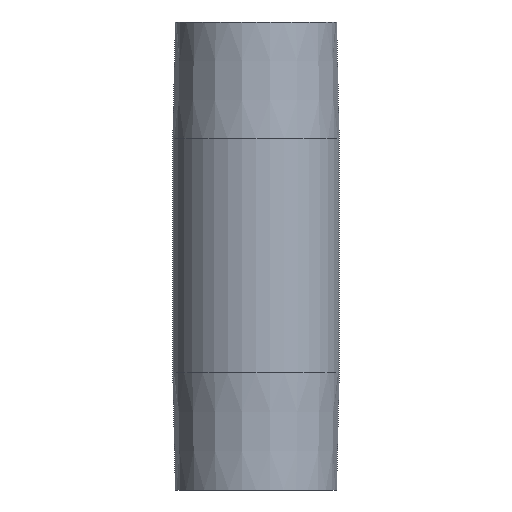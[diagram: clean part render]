
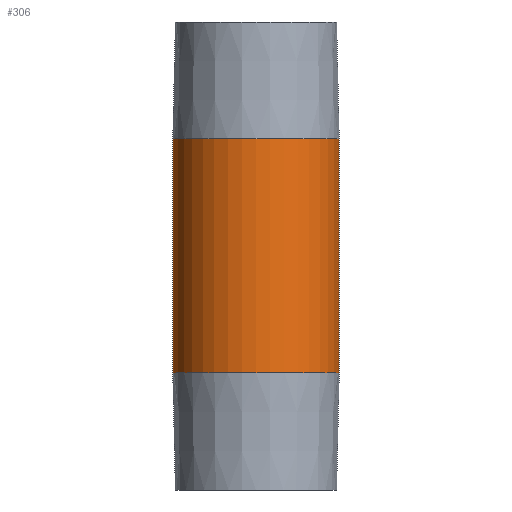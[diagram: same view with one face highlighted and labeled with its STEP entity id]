
A CAD part, front view. The second image highlights one B-rep face of the part: STEP entity #306.
In plain terms, the highlighted cylindrical face has radius 16 mm (diameter 32 mm), a partial arc.
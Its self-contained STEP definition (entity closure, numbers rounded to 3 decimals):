
#10 = VERTEX_POINT ( 'NONE', #141 ) ;
#45 = CARTESIAN_POINT ( 'NONE',  ( -16., 0., -22.5 ) ) ;
#48 = DIRECTION ( 'NONE',  ( 0., 0., 1. ) ) ;
#50 = EDGE_CURVE ( 'NONE', #149, #359, #256, .T. ) ;
#52 = LINE ( 'NONE', #204, #201 ) ;
#61 = DIRECTION ( 'NONE',  ( -1., 0., 0. ) ) ;
#76 = EDGE_CURVE ( 'NONE', #114, #359, #193, .T. ) ;
#92 = DIRECTION ( 'NONE',  ( 0., 0., -1. ) ) ;
#93 = FACE_OUTER_BOUND ( 'NONE', #195, .T. ) ;
#111 = AXIS2_PLACEMENT_3D ( 'NONE', #119, #48, #186 ) ;
#114 = VERTEX_POINT ( 'NONE', #45 ) ;
#119 = CARTESIAN_POINT ( 'NONE',  ( 0., 0., 22.5 ) ) ;
#126 = EDGE_CURVE ( 'NONE', #10, #149, #396, .T. ) ;
#127 = ORIENTED_EDGE ( 'NONE', *, *, #328, .T. ) ;
#141 = CARTESIAN_POINT ( 'NONE',  ( -16., 0., 22.5 ) ) ;
#149 = VERTEX_POINT ( 'NONE', #338 ) ;
#170 = CARTESIAN_POINT ( 'NONE',  ( 16., 0., -22.5 ) ) ;
#181 = DIRECTION ( 'NONE',  ( 0., 0., 1. ) ) ;
#186 = DIRECTION ( 'NONE',  ( 1., 0., 0. ) ) ;
#193 = CIRCLE ( 'NONE', #340, 16. ) ;
#195 = EDGE_LOOP ( 'NONE', ( #405, #210, #127, #334 ) ) ;
#201 = VECTOR ( 'NONE', #350, 1000. ) ;
#204 = CARTESIAN_POINT ( 'NONE',  ( -16., 0., 45. ) ) ;
#210 = ORIENTED_EDGE ( 'NONE', *, *, #126, .F. ) ;
#243 = CARTESIAN_POINT ( 'NONE',  ( 0., 0., 45. ) ) ;
#256 = LINE ( 'NONE', #295, #363 ) ;
#267 = AXIS2_PLACEMENT_3D ( 'NONE', #243, #92, #61 ) ;
#294 = DIRECTION ( 'NONE',  ( 0., 0., -1. ) ) ;
#295 = CARTESIAN_POINT ( 'NONE',  ( 16., 0., 45. ) ) ;
#306 = ADVANCED_FACE ( 'NONE', ( #93 ), #427, .T. ) ;
#328 = EDGE_CURVE ( 'NONE', #10, #114, #52, .T. ) ;
#334 = ORIENTED_EDGE ( 'NONE', *, *, #76, .T. ) ;
#338 = CARTESIAN_POINT ( 'NONE',  ( 16., 0., 22.5 ) ) ;
#340 = AXIS2_PLACEMENT_3D ( 'NONE', #401, #181, #442 ) ;
#350 = DIRECTION ( 'NONE',  ( 0., 0., -1. ) ) ;
#359 = VERTEX_POINT ( 'NONE', #170 ) ;
#363 = VECTOR ( 'NONE', #294, 1000. ) ;
#396 = CIRCLE ( 'NONE', #111, 16. ) ;
#401 = CARTESIAN_POINT ( 'NONE',  ( 0., 0., -22.5 ) ) ;
#405 = ORIENTED_EDGE ( 'NONE', *, *, #50, .F. ) ;
#427 = CYLINDRICAL_SURFACE ( 'NONE', #267, 16. ) ;
#442 = DIRECTION ( 'NONE',  ( 1., 0., 0. ) ) ;
